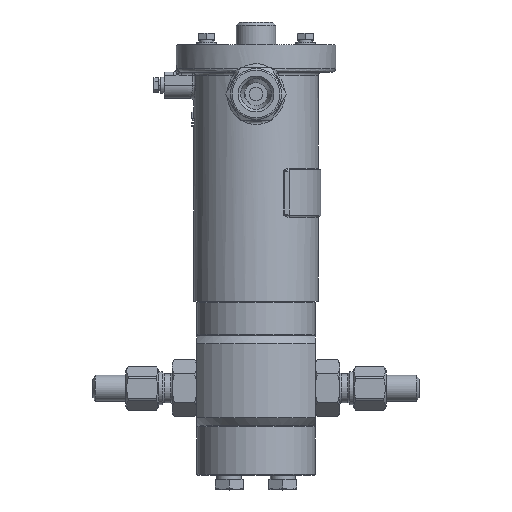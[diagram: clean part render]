
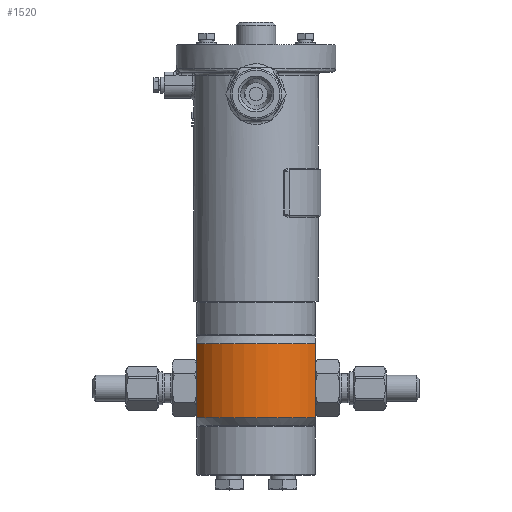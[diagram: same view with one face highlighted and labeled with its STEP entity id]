
A CAD part, top view. The second image highlights one B-rep face of the part: STEP entity #1520.
In plain terms, the highlighted cylindrical face has radius 42.5 mm (diameter 85 mm), a partial arc.
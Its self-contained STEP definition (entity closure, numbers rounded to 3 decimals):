
#1520=ADVANCED_FACE('',(#16591),#16593,.T.);
#16591=FACE_OUTER_BOUND('',#16592,.T.);
#16592=EDGE_LOOP('',(#27448,#27449,#27450,#27451));
#16593=CYLINDRICAL_SURFACE('',#16594,42.5);
#16594=AXIS2_PLACEMENT_3D('',#16595,#16596,#16597);
#16595=CARTESIAN_POINT('',(0.,27.,0.));
#16596=DIRECTION('',(0.,-1.,0.));
#16597=DIRECTION('',(1.,0.,0.));
#27448=ORIENTED_EDGE('',*,*,#35090,.T.);
#27449=ORIENTED_EDGE('',*,*,#35106,.T.);
#27450=ORIENTED_EDGE('',*,*,#35102,.T.);
#27451=ORIENTED_EDGE('',*,*,#35115,.F.);
#35090=EDGE_CURVE('',#42287,#42285,#42288,.F.);
#35102=EDGE_CURVE('',#42310,#42308,#42311,.T.);
#35106=EDGE_CURVE('',#42285,#42310,#42316,.T.);
#35115=EDGE_CURVE('',#42287,#42308,#42328,.T.);
#42285=VERTEX_POINT('',#64624);
#42287=VERTEX_POINT('',#64652);
#42288=LINE('',#64653,#64654);
#42308=VERTEX_POINT('',#64754);
#42310=VERTEX_POINT('',#64786);
#42311=LINE('',#64787,#64788);
#42316=CIRCLE('',#64852,42.5);
#42328=CIRCLE('',#64889,42.5);
#64624=CARTESIAN_POINT('',(36.,27.,22.589));
#64652=CARTESIAN_POINT('',(36.,-18.,22.589));
#64653=CARTESIAN_POINT('',(36.,27.,22.589));
#64654=VECTOR('',#64655,1.);
#64655=DIRECTION('',(0.,-1.,0.));
#64754=CARTESIAN_POINT('',(-36.,-18.,22.589));
#64786=CARTESIAN_POINT('',(-36.,27.,22.589));
#64787=CARTESIAN_POINT('',(-36.,27.,22.589));
#64788=VECTOR('',#64789,1.);
#64789=DIRECTION('',(0.,-1.,0.));
#64852=AXIS2_PLACEMENT_3D('',#64853,#64854,#64855);
#64853=CARTESIAN_POINT('',(0.,27.,0.));
#64854=DIRECTION('',(0.,-1.,0.));
#64855=DIRECTION('',(0.847,0.,0.531));
#64889=AXIS2_PLACEMENT_3D('',#64890,#64891,#64892);
#64890=CARTESIAN_POINT('',(0.,-18.,0.));
#64891=DIRECTION('',(0.,-1.,0.));
#64892=DIRECTION('',(0.847,0.,0.531));
